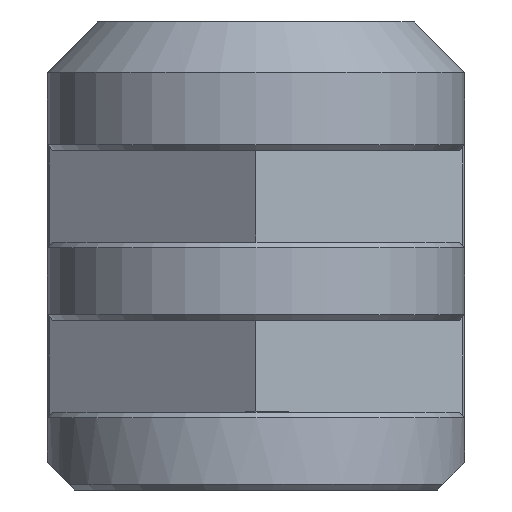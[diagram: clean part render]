
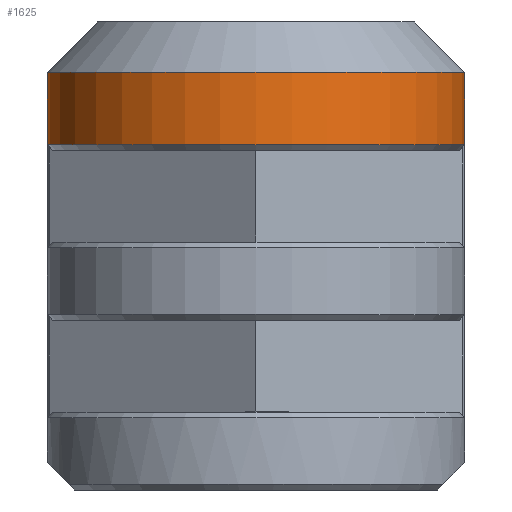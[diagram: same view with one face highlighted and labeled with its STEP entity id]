
A CAD part, left-side view. The second image highlights one B-rep face of the part: STEP entity #1625.
In plain terms, the highlighted cylindrical face has radius 7.5 mm (diameter 15 mm), a partial arc.
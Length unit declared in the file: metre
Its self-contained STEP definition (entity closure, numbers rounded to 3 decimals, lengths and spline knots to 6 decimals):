
#32=ELLIPSE('',#1742,0.010607,0.0075);
#33=ELLIPSE('',#1744,0.010607,0.0075);
#46=CIRCLE('',#1741,0.0075);
#47=CIRCLE('',#1743,0.0075);
#70=CYLINDRICAL_SURFACE('',#1740,0.0075);
#147=ORIENTED_EDGE('',*,*,#587,.T.);
#148=ORIENTED_EDGE('',*,*,#611,.T.);
#149=ORIENTED_EDGE('',*,*,#563,.F.);
#150=ORIENTED_EDGE('',*,*,#612,.T.);
#151=ORIENTED_EDGE('',*,*,#613,.T.);
#152=ORIENTED_EDGE('',*,*,#614,.T.);
#563=EDGE_CURVE('',#797,#798,#948,.T.);
#587=EDGE_CURVE('',#822,#821,#972,.T.);
#611=EDGE_CURVE('',#821,#798,#46,.F.);
#612=EDGE_CURVE('',#797,#841,#32,.F.);
#613=EDGE_CURVE('',#841,#842,#47,.F.);
#614=EDGE_CURVE('',#842,#822,#33,.T.);
#797=VERTEX_POINT('',#2341);
#798=VERTEX_POINT('',#2343);
#821=VERTEX_POINT('',#2390);
#822=VERTEX_POINT('',#2392);
#841=VERTEX_POINT('',#2442);
#842=VERTEX_POINT('',#2444);
#948=LINE('',#2342,#1145);
#972=LINE('',#2391,#1169);
#1145=VECTOR('',#1872,1.);
#1169=VECTOR('',#1898,1.);
#1336=EDGE_LOOP('',(#147,#148,#149,#150,#151,#152));
#1447=FACE_BOUND('',#1336,.T.);
#1625=ADVANCED_FACE('',(#1447),#70,.T.);
#1740=AXIS2_PLACEMENT_3D('',#2439,#1942,#1943);
#1741=AXIS2_PLACEMENT_3D('',#2440,#1944,#1945);
#1742=AXIS2_PLACEMENT_3D('',#2441,#1946,#1947);
#1743=AXIS2_PLACEMENT_3D('',#2443,#1948,#1949);
#1744=AXIS2_PLACEMENT_3D('',#2445,#1950,#1951);
#1872=DIRECTION('',(0.,0.,-1.));
#1898=DIRECTION('',(0.,0.,-1.));
#1942=DIRECTION('',(0.,0.,-1.));
#1943=DIRECTION('',(-1.,0.,0.));
#1944=DIRECTION('',(0.,0.,-1.));
#1945=DIRECTION('',(-1.,0.,0.));
#1946=DIRECTION('',(0.,0.707,-0.707));
#1947=DIRECTION('',(0.,-0.707,-0.707));
#1948=DIRECTION('',(0.,0.,1.));
#1949=DIRECTION('',(1.,0.,0.));
#1950=DIRECTION('',(0.,0.707,0.707));
#1951=DIRECTION('',(0.,0.707,-0.707));
#2341=CARTESIAN_POINT('',(-0.075,-0.0075,0.014));
#2342=CARTESIAN_POINT('',(-0.075,-0.0075,0.015));
#2343=CARTESIAN_POINT('',(-0.075,-0.0075,0.0124));
#2390=CARTESIAN_POINT('',(-0.075,0.0075,0.0124));
#2391=CARTESIAN_POINT('',(-0.075,0.0075,0.015));
#2392=CARTESIAN_POINT('',(-0.075,0.0075,0.014));
#2439=CARTESIAN_POINT('',(-0.075,0.,0.015));
#2440=CARTESIAN_POINT('',(-0.075,0.,0.0124));
#2441=CARTESIAN_POINT('',(-0.075,0.,0.0215));
#2442=CARTESIAN_POINT('',(-0.071258,-0.0065,0.015));
#2443=CARTESIAN_POINT('',(-0.075,0.,0.015));
#2444=CARTESIAN_POINT('',(-0.071258,0.0065,0.015));
#2445=CARTESIAN_POINT('',(-0.075,0.,0.0215));
